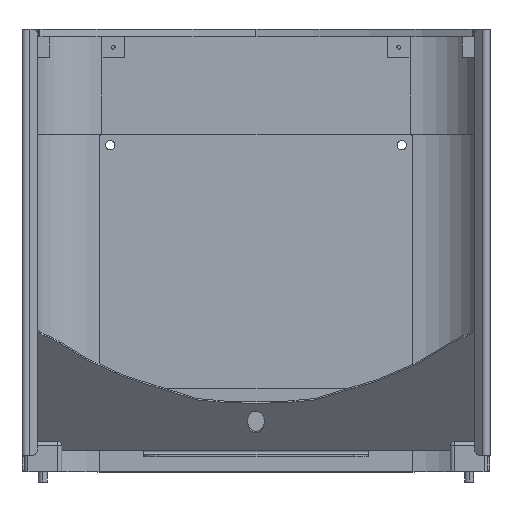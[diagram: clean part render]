
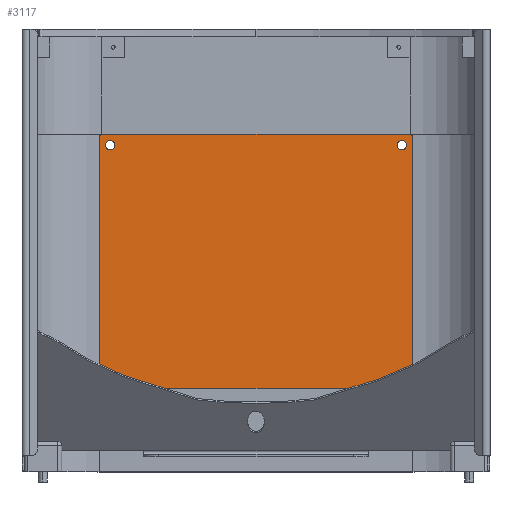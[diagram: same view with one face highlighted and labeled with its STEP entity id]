
A CAD part, top view. The second image highlights one B-rep face of the part: STEP entity #3117.
In plain terms, the highlighted planar face has unit normal (0, 0, 1) as drawn and (0, 0, -1) by its records, which use the part's own axes.
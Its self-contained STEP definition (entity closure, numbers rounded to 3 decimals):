
#36 = CIRCLE ( 'NONE', #4671, 2. ) ;
#96 = AXIS2_PLACEMENT_3D ( 'NONE', #1494, #10963, #6094 ) ;
#431 = DIRECTION ( 'NONE',  ( 0., 0., 1. ) ) ;
#464 = ORIENTED_EDGE ( 'NONE', *, *, #3828, .T. ) ;
#465 = DIRECTION ( 'NONE',  ( 1., 0., 0. ) ) ;
#701 = CIRCLE ( 'NONE', #6285, 2. ) ;
#782 = CIRCLE ( 'NONE', #5801, 3.15 ) ;
#865 = EDGE_CURVE ( 'NONE', #6614, #8427, #4001, .T. ) ;
#1131 = CARTESIAN_POINT ( 'NONE',  ( -83., 102.5, 0. ) ) ;
#1168 = ORIENTED_EDGE ( 'NONE', *, *, #8251, .T. ) ;
#1199 = FACE_OUTER_BOUND ( 'NONE', #1234, .T. ) ;
#1213 = LINE ( 'NONE', #9521, #10191 ) ;
#1234 = EDGE_LOOP ( 'NONE', ( #7387, #11265, #3726, #3842, #4669, #4614, #2062, #8200 ) ) ;
#1374 = PLANE ( 'NONE',  #8176 ) ;
#1494 = CARTESIAN_POINT ( 'NONE',  ( -77.5, 97.5, 0. ) ) ;
#1510 = EDGE_CURVE ( 'NONE', #4316, #3833, #5488, .T. ) ;
#1525 = CARTESIAN_POINT ( 'NONE',  ( 83., -104.5, 0. ) ) ;
#1806 = FACE_BOUND ( 'NONE', #5763, .T. ) ;
#2062 = ORIENTED_EDGE ( 'NONE', *, *, #1510, .F. ) ;
#2615 = CARTESIAN_POINT ( 'NONE',  ( -80.65, -97.5, 0. ) ) ;
#2658 = AXIS2_PLACEMENT_3D ( 'NONE', #4783, #11406, #7621 ) ;
#2754 = DIRECTION ( 'NONE',  ( 0., 0., -1. ) ) ;
#2954 = VERTEX_POINT ( 'NONE', #7169 ) ;
#3007 = DIRECTION ( 'NONE',  ( 0., 0., -1. ) ) ;
#3008 = DIRECTION ( 'NONE',  ( 0., 0., 1. ) ) ;
#3036 = VERTEX_POINT ( 'NONE', #3750 ) ;
#3117 = ADVANCED_FACE ( 'NONE', ( #1806, #4590, #11099, #6828, #1199 ), #1374, .F. ) ;
#3362 = DIRECTION ( 'NONE',  ( 1., 0., 0. ) ) ;
#3384 = CIRCLE ( 'NONE', #96, 3.15 ) ;
#3434 = CARTESIAN_POINT ( 'NONE',  ( 77.5, -97.5, 0. ) ) ;
#3607 = DIRECTION ( 'NONE',  ( 0., 0., 1. ) ) ;
#3623 = CARTESIAN_POINT ( 'NONE',  ( -85., 104.5, 0. ) ) ;
#3726 = ORIENTED_EDGE ( 'NONE', *, *, #7776, .F. ) ;
#3750 = CARTESIAN_POINT ( 'NONE',  ( -74.35, -97.5, 0. ) ) ;
#3770 = VERTEX_POINT ( 'NONE', #9868 ) ;
#3828 = EDGE_CURVE ( 'NONE', #7224, #3036, #7392, .T. ) ;
#3833 = VERTEX_POINT ( 'NONE', #6377 ) ;
#3842 = ORIENTED_EDGE ( 'NONE', *, *, #7162, .T. ) ;
#3876 = CARTESIAN_POINT ( 'NONE',  ( 83., 102.5, 0. ) ) ;
#3924 = CARTESIAN_POINT ( 'NONE',  ( 0., 0., 0. ) ) ;
#3964 = CARTESIAN_POINT ( 'NONE',  ( 85., 102.5, 0. ) ) ;
#3984 = AXIS2_PLACEMENT_3D ( 'NONE', #6931, #3007, #6190 ) ;
#4001 = LINE ( 'NONE', #6723, #5651 ) ;
#4032 = CARTESIAN_POINT ( 'NONE',  ( 80.65, -97.5, 0. ) ) ;
#4069 = VERTEX_POINT ( 'NONE', #1525 ) ;
#4079 = DIRECTION ( 'NONE',  ( 1., 0., 0. ) ) ;
#4093 = CIRCLE ( 'NONE', #10888, 3.15 ) ;
#4316 = VERTEX_POINT ( 'NONE', #7454 ) ;
#4498 = AXIS2_PLACEMENT_3D ( 'NONE', #6444, #3607, #4620 ) ;
#4590 = FACE_BOUND ( 'NONE', #7809, .T. ) ;
#4601 = EDGE_CURVE ( 'NONE', #8946, #6445, #10124, .T. ) ;
#4614 = ORIENTED_EDGE ( 'NONE', *, *, #4777, .T. ) ;
#4620 = DIRECTION ( 'NONE',  ( 1., 0., 0. ) ) ;
#4639 = CIRCLE ( 'NONE', #11435, 3.15 ) ;
#4669 = ORIENTED_EDGE ( 'NONE', *, *, #4601, .F. ) ;
#4671 = AXIS2_PLACEMENT_3D ( 'NONE', #1131, #4996, #465 ) ;
#4777 = EDGE_CURVE ( 'NONE', #8946, #3833, #36, .T. ) ;
#4783 = CARTESIAN_POINT ( 'NONE',  ( 77.5, 97.5, 0. ) ) ;
#4830 = VERTEX_POINT ( 'NONE', #4032 ) ;
#4858 = VERTEX_POINT ( 'NONE', #9809 ) ;
#4894 = EDGE_CURVE ( 'NONE', #4830, #3770, #4093, .T. ) ;
#4981 = VERTEX_POINT ( 'NONE', #7839 ) ;
#4996 = DIRECTION ( 'NONE',  ( 0., 0., -1. ) ) ;
#5068 = EDGE_LOOP ( 'NONE', ( #10453, #10250 ) ) ;
#5084 = CARTESIAN_POINT ( 'NONE',  ( -77.5, 97.5, 0. ) ) ;
#5298 = DIRECTION ( 'NONE',  ( 1., 0., 0. ) ) ;
#5488 = LINE ( 'NONE', #11027, #8400 ) ;
#5620 = CARTESIAN_POINT ( 'NONE',  ( 85., -102.5, 0. ) ) ;
#5651 = VECTOR ( 'NONE', #7748, 1000. ) ;
#5763 = EDGE_LOOP ( 'NONE', ( #6604, #11415 ) ) ;
#5801 = AXIS2_PLACEMENT_3D ( 'NONE', #10640, #8578, #4079 ) ;
#6094 = DIRECTION ( 'NONE',  ( 1., 0., 0. ) ) ;
#6190 = DIRECTION ( 'NONE',  ( 1., 0., 0. ) ) ;
#6198 = DIRECTION ( 'NONE',  ( 0., 0., 1. ) ) ;
#6285 = AXIS2_PLACEMENT_3D ( 'NONE', #3876, #7561, #11288 ) ;
#6367 = EDGE_CURVE ( 'NONE', #4981, #2954, #11337, .T. ) ;
#6377 = CARTESIAN_POINT ( 'NONE',  ( -83., 104.5, 0. ) ) ;
#6444 = CARTESIAN_POINT ( 'NONE',  ( -77.5, -97.5, 0. ) ) ;
#6445 = VERTEX_POINT ( 'NONE', #7920 ) ;
#6453 = CARTESIAN_POINT ( 'NONE',  ( 83., -102.5, 0. ) ) ;
#6604 = ORIENTED_EDGE ( 'NONE', *, *, #4894, .T. ) ;
#6614 = VERTEX_POINT ( 'NONE', #5620 ) ;
#6622 = EDGE_CURVE ( 'NONE', #4316, #8427, #701, .T. ) ;
#6650 = DIRECTION ( 'NONE',  ( 1., 0., 0. ) ) ;
#6723 = CARTESIAN_POINT ( 'NONE',  ( 85., 104.5, 0. ) ) ;
#6828 = FACE_BOUND ( 'NONE', #5068, .T. ) ;
#6925 = EDGE_LOOP ( 'NONE', ( #11545, #464 ) ) ;
#6931 = CARTESIAN_POINT ( 'NONE',  ( -83., -102.5, 0. ) ) ;
#6957 = CARTESIAN_POINT ( 'NONE',  ( 80.65, 97.5, 0. ) ) ;
#7162 = EDGE_CURVE ( 'NONE', #4858, #6445, #7842, .T. ) ;
#7169 = CARTESIAN_POINT ( 'NONE',  ( -74.35, 97.5, 0. ) ) ;
#7210 = VERTEX_POINT ( 'NONE', #8312 ) ;
#7224 = VERTEX_POINT ( 'NONE', #2615 ) ;
#7387 = ORIENTED_EDGE ( 'NONE', *, *, #865, .F. ) ;
#7392 = CIRCLE ( 'NONE', #4498, 3.15 ) ;
#7454 = CARTESIAN_POINT ( 'NONE',  ( 83., 104.5, 0. ) ) ;
#7490 = CIRCLE ( 'NONE', #2658, 3.15 ) ;
#7533 = CIRCLE ( 'NONE', #10650, 2. ) ;
#7561 = DIRECTION ( 'NONE',  ( 0., 0., -1. ) ) ;
#7621 = DIRECTION ( 'NONE',  ( 1., 0., 0. ) ) ;
#7748 = DIRECTION ( 'NONE',  ( 0., 1., 0. ) ) ;
#7776 = EDGE_CURVE ( 'NONE', #4858, #4069, #1213, .T. ) ;
#7809 = EDGE_LOOP ( 'NONE', ( #1168, #10442 ) ) ;
#7839 = CARTESIAN_POINT ( 'NONE',  ( -80.65, 97.5, 0. ) ) ;
#7842 = CIRCLE ( 'NONE', #3984, 2. ) ;
#7920 = CARTESIAN_POINT ( 'NONE',  ( -85., -102.5, 0. ) ) ;
#7952 = CARTESIAN_POINT ( 'NONE',  ( 77.5, -97.5, 0. ) ) ;
#8101 = DIRECTION ( 'NONE',  ( -1., 0., 0. ) ) ;
#8176 = AXIS2_PLACEMENT_3D ( 'NONE', #3924, #11395, #11276 ) ;
#8200 = ORIENTED_EDGE ( 'NONE', *, *, #6622, .T. ) ;
#8251 = EDGE_CURVE ( 'NONE', #2954, #4981, #3384, .T. ) ;
#8312 = CARTESIAN_POINT ( 'NONE',  ( 74.35, 97.5, 0. ) ) ;
#8347 = VECTOR ( 'NONE', #12006, 1000. ) ;
#8400 = VECTOR ( 'NONE', #8101, 1000. ) ;
#8427 = VERTEX_POINT ( 'NONE', #3964 ) ;
#8548 = DIRECTION ( 'NONE',  ( 1., 0., 0. ) ) ;
#8578 = DIRECTION ( 'NONE',  ( 0., 0., 1. ) ) ;
#8863 = CARTESIAN_POINT ( 'NONE',  ( -85., 102.5, 0. ) ) ;
#8946 = VERTEX_POINT ( 'NONE', #8863 ) ;
#9521 = CARTESIAN_POINT ( 'NONE',  ( -85., -104.5, 0. ) ) ;
#9605 = CIRCLE ( 'NONE', #10765, 3.15 ) ;
#9809 = CARTESIAN_POINT ( 'NONE',  ( -83., -104.5, 0. ) ) ;
#9868 = CARTESIAN_POINT ( 'NONE',  ( 74.35, -97.5, 0. ) ) ;
#10124 = LINE ( 'NONE', #3623, #8347 ) ;
#10171 = DIRECTION ( 'NONE',  ( 1., 0., 0. ) ) ;
#10182 = AXIS2_PLACEMENT_3D ( 'NONE', #5084, #431, #8548 ) ;
#10191 = VECTOR ( 'NONE', #6650, 1000. ) ;
#10250 = ORIENTED_EDGE ( 'NONE', *, *, #10341, .T. ) ;
#10341 = EDGE_CURVE ( 'NONE', #7210, #10618, #7490, .T. ) ;
#10442 = ORIENTED_EDGE ( 'NONE', *, *, #6367, .T. ) ;
#10453 = ORIENTED_EDGE ( 'NONE', *, *, #10934, .T. ) ;
#10472 = DIRECTION ( 'NONE',  ( 1., 0., 0. ) ) ;
#10618 = VERTEX_POINT ( 'NONE', #6957 ) ;
#10640 = CARTESIAN_POINT ( 'NONE',  ( -77.5, -97.5, 0. ) ) ;
#10650 = AXIS2_PLACEMENT_3D ( 'NONE', #6453, #2754, #10171 ) ;
#10765 = AXIS2_PLACEMENT_3D ( 'NONE', #11330, #3008, #10472 ) ;
#10888 = AXIS2_PLACEMENT_3D ( 'NONE', #3434, #6198, #5298 ) ;
#10934 = EDGE_CURVE ( 'NONE', #10618, #7210, #9605, .T. ) ;
#10963 = DIRECTION ( 'NONE',  ( 0., 0., 1. ) ) ;
#11027 = CARTESIAN_POINT ( 'NONE',  ( -85., 104.5, 0. ) ) ;
#11099 = FACE_BOUND ( 'NONE', #6925, .T. ) ;
#11226 = EDGE_CURVE ( 'NONE', #6614, #4069, #7533, .T. ) ;
#11265 = ORIENTED_EDGE ( 'NONE', *, *, #11226, .T. ) ;
#11276 = DIRECTION ( 'NONE',  ( 1., 0., 0. ) ) ;
#11288 = DIRECTION ( 'NONE',  ( 1., 0., 0. ) ) ;
#11330 = CARTESIAN_POINT ( 'NONE',  ( 77.5, 97.5, 0. ) ) ;
#11337 = CIRCLE ( 'NONE', #10182, 3.15 ) ;
#11395 = DIRECTION ( 'NONE',  ( 0., 0., 1. ) ) ;
#11406 = DIRECTION ( 'NONE',  ( 0., 0., 1. ) ) ;
#11415 = ORIENTED_EDGE ( 'NONE', *, *, #11532, .T. ) ;
#11435 = AXIS2_PLACEMENT_3D ( 'NONE', #7952, #11685, #3362 ) ;
#11475 = EDGE_CURVE ( 'NONE', #3036, #7224, #782, .T. ) ;
#11532 = EDGE_CURVE ( 'NONE', #3770, #4830, #4639, .T. ) ;
#11545 = ORIENTED_EDGE ( 'NONE', *, *, #11475, .T. ) ;
#11685 = DIRECTION ( 'NONE',  ( 0., 0., 1. ) ) ;
#12006 = DIRECTION ( 'NONE',  ( 0., -1., 0. ) ) ;
